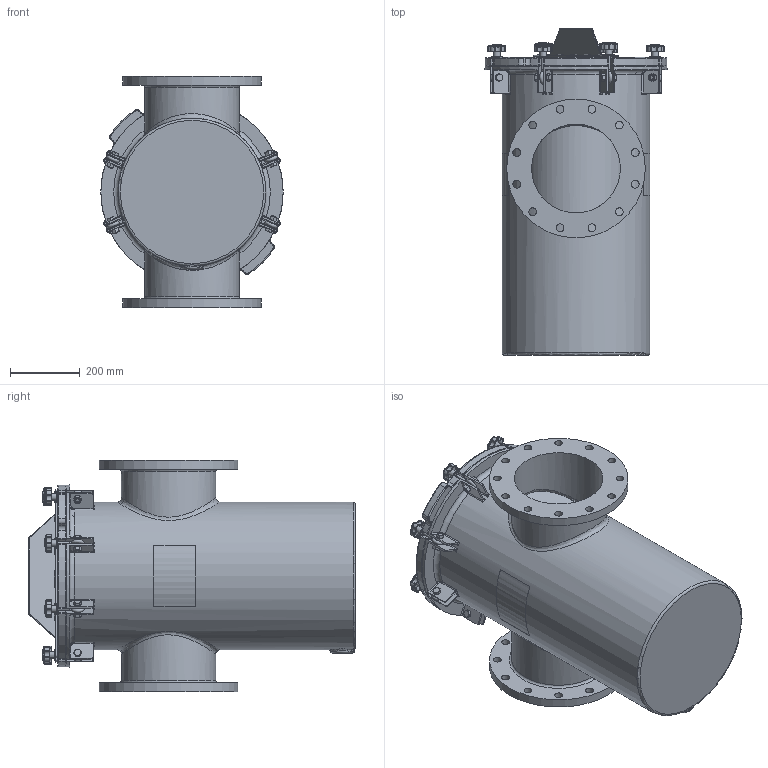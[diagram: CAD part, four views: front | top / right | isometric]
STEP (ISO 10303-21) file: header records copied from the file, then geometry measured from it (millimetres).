
FILE_DESCRIPTION(/* description */ ('STRAINER BODY'),/* implementation_level */ '2;1');
FILE_NAME(/* name */ '\\chntshnas1\IP_PUMPS\NeptuneBenson\Project Execution\WIP\Ready for delivery - Do not Disturb -Updated with metric Flange\Workspace\FG Straight Strainer\150NBFG10X10-MM.stp',/* time_stamp */ '2016-10-18T19:44:38+05:00',/* author */ ('20076253'),/* organization */ (''),/* preprocessor_version */ 'ST-DEVELOPER v16.1',/* originating_system */ 'Autodesk Inventor 2016',/* authorisation */ '');
FILE_SCHEMA (('AUTOMOTIVE_DESIGN { 1 0 10303 214 3 1 1 }'));
Length unit declared in the file: inch
Products named in the file (24): NBFGBODY10X10MM; 150NBCVR20R2; 150NBGSK16R1; Perforated Basket 16in; Bride (Ring) 16in; Baffle 16in; Handle 16in; Bottom Strainer 16in; NBBSK10T316; BRACESTRCVR16_Welds; BRACE (BASE) FOR 16 BODY; BRACE (PROJ) FOR 16 BODY; Bumper; BRACESTRCVR16; Nut- 1_2  UNC; Bolt-1_2 x 1 1_2  UNC; EyeBolt; Washer; Knob M10; Securing Assembly For FG  with Brace; Securing Assembly For FG without Brace; Label for 16.625 inch (Right); Label for 16.625 inch (Left); Guardian FG H&L Strainer (Metric)
Assembly tree (39 placements, depth 3):
  Guardian FG H&L Strainer (Metric)
    NBFGBODY10X10MM
    150NBCVR20R2
    150NBGSK16R1
    NBBSK10T316
      Perforated Basket 16in
      Bride (Ring) 16in
      Baffle 16in
      Handle 16in
      Bottom Strainer 16in
    BRACESTRCVR16
      BRACESTRCVR16_Welds
      BRACE (BASE) FOR 16 BODY
      BRACE (PROJ) FOR 16 BODY
      Bumper  x6
    Securing Assembly For FG  with Brace  x2
      Nut- 1_2  UNC
      Bolt-1_2 x 1 1_2  UNC
      EyeBolt
      Washer
      Knob M10
    Securing Assembly For FG without Brace  x6
      Nut- 1_2  UNC
      Bolt-1_2 x 1 1_2  UNC
      EyeBolt
      Washer
      Knob M10
    Label for 16.625 inch (Right)
    Label for 16.625 inch (Left)
Bounding box: 520.7 x 933.45 x 660.4 mm (x, y, z)
Volume: 22738080 mm3; surface area: 5647747.4 mm2
Topology: 66 solids, 66 shells, 1814 faces, 4132 edges, 2440 vertices
Faces by surface type: cylinder 665, plane 500, cone 184, torus 166, sphere 158, bspline 141
Full cylindrical faces by diameter (mm): 3.175 x11, 6.35 x1, 8.382 x8, 9.525 x16, 10.592 x8, 12.7 x8, 15.875 x16, 19 x16, 19.05 x8, 22.098 x24, 22.809 x1, 31.75 x8, 254 x2, 269.875 x2, 295.275 x2, 298.45 x1, 300.99 x1, 396.24 x2, 406.4 x2, 409.575 x1, 415.925 x1, 422.275 x1, 457.2 x1, 463.55 x1
Entity records: 33986 total; most frequent: CARTESIAN_POINT 10973, DIRECTION 4759, ORIENTED_EDGE 4336, EDGE_CURVE 2168, AXIS2_PLACEMENT_3D 1956, VERTEX_POINT 1359, EDGE_LOOP 1187, ADVANCED_FACE 964
